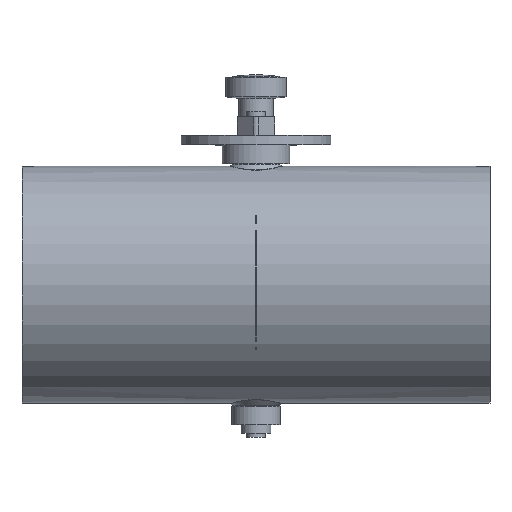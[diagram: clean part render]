
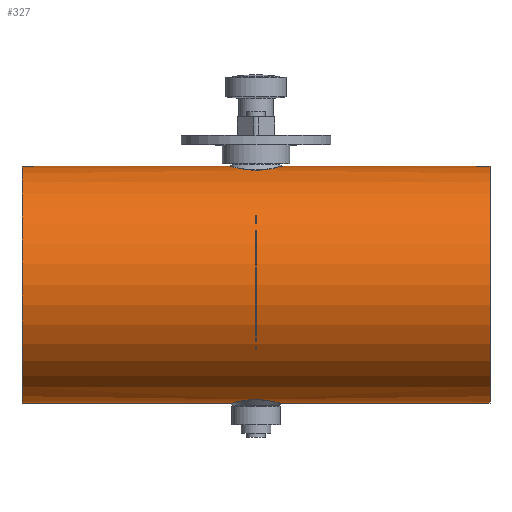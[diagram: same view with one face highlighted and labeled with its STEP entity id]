
A CAD part, top view. The second image highlights one B-rep face of the part: STEP entity #327.
In plain terms, the highlighted cylindrical face has radius 63.3 mm (diameter 126.6 mm), a full revolution.
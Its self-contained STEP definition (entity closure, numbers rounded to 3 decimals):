
#109=B_SPLINE_CURVE_WITH_KNOTS('',3,(#1973,#1974,#1975,#1976,#1977,#1978,
#1979,#1980,#1981,#1982,#1983,#1984,#1985,#1986,#1987,#1988,#1989,#1990,
#1991,#1992,#1993,#1994),.UNSPECIFIED.,.T.,.F.,(2,2,2,2,2,2,2,2,2,2,2,2,
2),(-0.063,0.,0.125,0.25,0.375,0.438,0.5,0.625,0.75,0.875,
0.938,1.,1.125),.UNSPECIFIED.);
#110=B_SPLINE_CURVE_WITH_KNOTS('',3,(#1996,#1997,#1998,#1999,#2000,#2001,
#2002,#2003,#2004,#2005,#2006,#2007,#2008,#2009,#2010,#2011,#2012,#2013,
#2014,#2015,#2016,#2017,#2018,#2019,#2020,#2021),.UNSPECIFIED.,.T.,.F.,(2,
2,2,2,2,2,2,2,2,2,2,2,2,2,2),(-0.063,0.,0.063,0.125,0.25,0.375,
0.5,0.562,0.625,0.687,
0.75,0.875,0.938,1.,1.063),.UNSPECIFIED.);
#267=CYLINDRICAL_SURFACE('',#1368,63.3);
#327=ADVANCED_FACE('',(#491,#492,#493,#494),#267,.T.);
#491=FACE_BOUND('',#651,.T.);
#492=FACE_BOUND('',#652,.T.);
#493=FACE_BOUND('',#653,.T.);
#494=FACE_BOUND('',#654,.T.);
#651=EDGE_LOOP('',(#867));
#652=EDGE_LOOP('',(#868));
#653=EDGE_LOOP('',(#869));
#654=EDGE_LOOP('',(#870));
#867=ORIENTED_EDGE('',*,*,#1151,.T.);
#868=ORIENTED_EDGE('',*,*,#1152,.T.);
#869=ORIENTED_EDGE('',*,*,#1147,.T.);
#870=ORIENTED_EDGE('',*,*,#1149,.T.);
#1031=VERTEX_POINT('',#1964);
#1033=VERTEX_POINT('',#1969);
#1035=VERTEX_POINT('',#1995);
#1036=VERTEX_POINT('',#2022);
#1147=EDGE_CURVE('',#1031,#1031,#1243,.T.);
#1149=EDGE_CURVE('',#1033,#1033,#1245,.T.);
#1151=EDGE_CURVE('',#1035,#1035,#109,.T.);
#1152=EDGE_CURVE('',#1036,#1036,#110,.T.);
#1243=CIRCLE('',#1362,63.3);
#1245=CIRCLE('',#1365,63.3);
#1362=AXIS2_PLACEMENT_3D('',#1963,#1634,#1635);
#1365=AXIS2_PLACEMENT_3D('',#1968,#1640,#1641);
#1368=AXIS2_PLACEMENT_3D('',#2023,#1646,#1647);
#1634=DIRECTION('',(-1.,0.,0.));
#1635=DIRECTION('',(0.,0.,1.));
#1640=DIRECTION('',(1.,0.,0.));
#1641=DIRECTION('',(0.,0.,-1.));
#1646=DIRECTION('',(1.,0.,0.));
#1647=DIRECTION('',(0.,0.,-1.));
#1963=CARTESIAN_POINT('',(125.,-20.8,125.));
#1964=CARTESIAN_POINT('',(125.,-20.8,188.3));
#1968=CARTESIAN_POINT('',(-125.,-20.8,125.));
#1969=CARTESIAN_POINT('',(-125.,-20.8,61.7));
#1973=CARTESIAN_POINT('',(-1.423,-82.012,108.867));
#1974=CARTESIAN_POINT('',(-7.199,-82.427,110.501));
#1975=CARTESIAN_POINT('',(-10.326,-83.122,113.378));
#1976=CARTESIAN_POINT('',(-13.997,-84.024,120.327));
#1977=CARTESIAN_POINT('',(-14.59,-84.217,124.512));
#1978=CARTESIAN_POINT('',(-13.084,-83.803,132.248));
#1979=CARTESIAN_POINT('',(-10.977,-83.202,135.898));
#1980=CARTESIAN_POINT('',(-6.335,-82.435,139.474));
#1981=CARTESIAN_POINT('',(-4.513,-82.208,140.366));
#1982=CARTESIAN_POINT('',(-0.609,-81.993,141.202));
#1983=CARTESIAN_POINT('',(1.444,-82.014,141.127));
#1984=CARTESIAN_POINT('',(7.139,-82.423,139.518));
#1985=CARTESIAN_POINT('',(10.293,-83.115,136.669));
#1986=CARTESIAN_POINT('',(14.002,-84.025,129.678));
#1987=CARTESIAN_POINT('',(14.599,-84.219,125.558));
#1988=CARTESIAN_POINT('',(13.082,-83.802,117.719));
#1989=CARTESIAN_POINT('',(11.036,-83.212,114.149));
#1990=CARTESIAN_POINT('',(6.313,-82.431,110.508));
#1991=CARTESIAN_POINT('',(4.491,-82.207,109.629));
#1992=CARTESIAN_POINT('',(0.628,-81.994,108.802));
#1993=CARTESIAN_POINT('',(-1.423,-82.012,108.867));
#1994=CARTESIAN_POINT('',(-7.199,-82.427,110.501));
#1995=CARTESIAN_POINT('',(-3.348,-82.151,109.411));
#1996=CARTESIAN_POINT('',(-5.274,40.689,109.956));
#1997=CARTESIAN_POINT('',(-1.423,40.412,108.867));
#1998=CARTESIAN_POINT('',(0.619,40.394,108.801));
#1999=CARTESIAN_POINT('',(4.488,40.606,109.627));
#2000=CARTESIAN_POINT('',(6.322,40.833,110.515));
#2001=CARTESIAN_POINT('',(11.011,41.608,114.129));
#2002=CARTESIAN_POINT('',(13.094,42.206,117.776));
#2003=CARTESIAN_POINT('',(14.59,42.616,125.515));
#2004=CARTESIAN_POINT('',(13.988,42.422,129.697));
#2005=CARTESIAN_POINT('',(10.322,41.522,136.623));
#2006=CARTESIAN_POINT('',(7.209,40.831,139.486));
#2007=CARTESIAN_POINT('',(1.465,40.414,141.127));
#2008=CARTESIAN_POINT('',(-0.582,40.393,141.203));
#2009=CARTESIAN_POINT('',(-4.487,40.606,140.376));
#2010=CARTESIAN_POINT('',(-6.307,40.831,139.492));
#2011=CARTESIAN_POINT('',(-9.427,41.346,137.096));
#2012=CARTESIAN_POINT('',(-10.739,41.633,135.582));
#2013=CARTESIAN_POINT('',(-12.76,42.115,132.183));
#2014=CARTESIAN_POINT('',(-13.461,42.306,130.322));
#2015=CARTESIAN_POINT('',(-14.599,42.619,124.445));
#2016=CARTESIAN_POINT('',(-14.013,42.428,120.348));
#2017=CARTESIAN_POINT('',(-11.222,41.743,115.079));
#2018=CARTESIAN_POINT('',(-10.019,41.467,113.533));
#2019=CARTESIAN_POINT('',(-7.018,40.933,110.941));
#2020=CARTESIAN_POINT('',(-5.274,40.689,109.956));
#2021=CARTESIAN_POINT('',(-1.423,40.412,108.867));
#2022=CARTESIAN_POINT('',(-3.348,40.551,109.411));
#2023=CARTESIAN_POINT('',(-125.,-20.8,125.));
